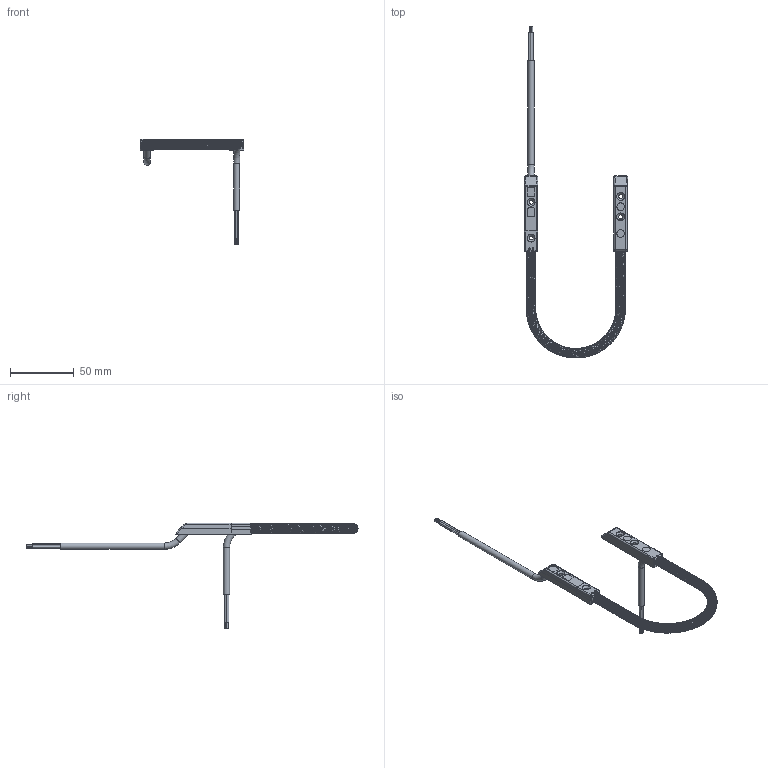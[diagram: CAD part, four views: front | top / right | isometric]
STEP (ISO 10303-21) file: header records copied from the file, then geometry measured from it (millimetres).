
FILE_DESCRIPTION((''),'2;1');
FILE_NAME('S:\Projekte\10-22_P_LINK_Kabeluebergang_M_13_34\Zeichungen\Artikel\3D\Zusammenbau\M 13 34.stp','2011-09-05T08:20:33',('jsuarez'),(''),'Autodesk Inventor 2012','Autodesk Inventor 2012','');
FILE_SCHEMA(('AUTOMOTIVE_DESIGN { 1 0 10303 214 1 1 1 1 }'));
Length unit declared in the file: millimetre
Products named in the file (6): M 13 34; 1206069- Buchsenseite M 13 34 1m; Buchse M 13 34; 1107495- Feder (gebogen); Stecker M 13 34; 1209188- Befestigungsleiste
Assembly tree (5 placements, depth 3):
  M 13 34
    1206069- Buchsenseite M 13 34 1m
      Buchse M 13 34
      1107495- Feder (gebogen)
    Stecker M 13 34
    1209188- Befestigungsleiste
Bounding box: 80.8 x 259.47 x 82.63 mm (x, y, z)
Volume: 12298.4 mm3; surface area: 27309 mm2
Topology: 3 solids, 4 shells, 503 faces, 1229 edges, 785 vertices
Faces by surface type: plane 251, cylinder 166, bspline 31, cone 28, torus 17, sphere 10
Full cylindrical faces by diameter (mm): 0.7 x14, 1.2 x12, 1.5 x8, 2 x1, 3.2 x3, 3.6 x1, 4.9 x5, 6 x2, 6.2 x4
Entity records: 66859 total; most frequent: CARTESIAN_POINT 54744, DIRECTION 2332, ORIENTED_EDGE 2310, EDGE_CURVE 1155, AXIS2_PLACEMENT_3D 854, VERTEX_POINT 772, EDGE_LOOP 625, VECTOR 624
